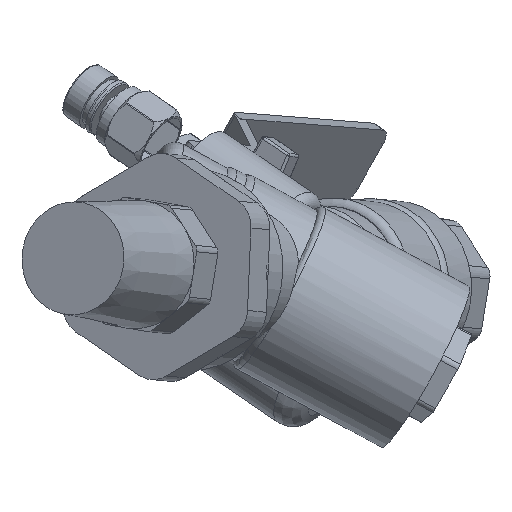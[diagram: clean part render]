
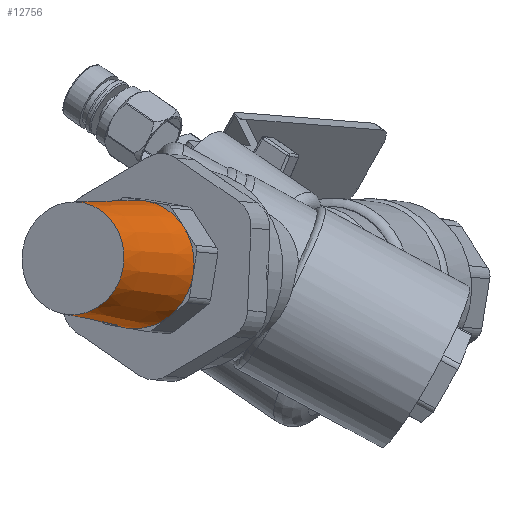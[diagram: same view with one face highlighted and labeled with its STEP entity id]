
A CAD part, front view. The second image highlights one B-rep face of the part: STEP entity #12756.
In plain terms, the highlighted conical face has half-angle 3 degrees and reference radius 13.335 mm.
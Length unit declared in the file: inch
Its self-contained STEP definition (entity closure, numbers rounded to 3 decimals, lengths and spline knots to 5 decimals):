
#275=CONICAL_SURFACE('',#13634,0.525,0.052);
#1563=LINE('',#20199,#2540);
#2540=VECTOR('',#15209,0.525);
#3578=FACE_OUTER_BOUND('',#4293,.T.);
#4293=EDGE_LOOP('',(#9535,#9536,#9537,#9538,#9539,#9540,#9541,#9542,#9543,
#9544,#9545,#9546));
#4784=CIRCLE('',#13318,0.525);
#4787=CIRCLE('',#13324,0.525);
#4790=CIRCLE('',#13330,0.525);
#4793=CIRCLE('',#13336,0.525);
#4794=CIRCLE('',#13337,0.525);
#4797=CIRCLE('',#13343,0.525);
#4800=CIRCLE('',#13348,0.525);
#4803=CIRCLE('',#13353,0.525);
#4806=CIRCLE('',#13359,0.525);
#4936=CIRCLE('',#13635,0.46211);
#5105=VERTEX_POINT('',#17239);
#5106=VERTEX_POINT('',#17241);
#5113=VERTEX_POINT('',#17260);
#5114=VERTEX_POINT('',#17262);
#5123=VERTEX_POINT('',#17290);
#5126=VERTEX_POINT('',#17299);
#5129=VERTEX_POINT('',#17309);
#5134=VERTEX_POINT('',#17325);
#5139=VERTEX_POINT('',#17338);
#5525=VERTEX_POINT('',#20197);
#6371=EDGE_CURVE('',#5105,#5106,#4784,.T.);
#6381=EDGE_CURVE('',#5113,#5114,#4787,.T.);
#6390=EDGE_CURVE('',#5106,#5113,#4790,.T.);
#6400=EDGE_CURVE('',#5114,#5126,#4793,.T.);
#6401=EDGE_CURVE('',#5126,#5123,#4794,.T.);
#6409=EDGE_CURVE('',#5123,#5129,#4797,.T.);
#6414=EDGE_CURVE('',#5134,#5105,#4800,.T.);
#6420=EDGE_CURVE('',#5139,#5134,#4803,.T.);
#6427=EDGE_CURVE('',#5129,#5139,#4806,.T.);
#7000=EDGE_CURVE('',#5525,#5525,#4936,.T.);
#7001=EDGE_CURVE('',#5525,#5126,#1563,.T.);
#9535=ORIENTED_EDGE('',*,*,#7000,.T.);
#9536=ORIENTED_EDGE('',*,*,#7001,.T.);
#9537=ORIENTED_EDGE('',*,*,#6400,.F.);
#9538=ORIENTED_EDGE('',*,*,#6381,.F.);
#9539=ORIENTED_EDGE('',*,*,#6390,.F.);
#9540=ORIENTED_EDGE('',*,*,#6371,.F.);
#9541=ORIENTED_EDGE('',*,*,#6414,.F.);
#9542=ORIENTED_EDGE('',*,*,#6420,.F.);
#9543=ORIENTED_EDGE('',*,*,#6427,.F.);
#9544=ORIENTED_EDGE('',*,*,#6409,.F.);
#9545=ORIENTED_EDGE('',*,*,#6401,.F.);
#9546=ORIENTED_EDGE('',*,*,#7001,.F.);
#12756=ADVANCED_FACE('',(#3578),#275,.T.);
#13318=AXIS2_PLACEMENT_3D('',#17242,#14276,#14277);
#13324=AXIS2_PLACEMENT_3D('',#17263,#14295,#14296);
#13330=AXIS2_PLACEMENT_3D('',#17279,#14313,#14314);
#13336=AXIS2_PLACEMENT_3D('',#17300,#14332,#14333);
#13337=AXIS2_PLACEMENT_3D('',#17301,#14334,#14335);
#13343=AXIS2_PLACEMENT_3D('',#17317,#14351,#14352);
#13348=AXIS2_PLACEMENT_3D('',#17327,#14363,#14364);
#13353=AXIS2_PLACEMENT_3D('',#17340,#14376,#14377);
#13359=AXIS2_PLACEMENT_3D('',#17352,#14392,#14393);
#13634=AXIS2_PLACEMENT_3D('',#20196,#15205,#15206);
#13635=AXIS2_PLACEMENT_3D('',#20198,#15207,#15208);
#14276=DIRECTION('center_axis',(0.43,0.902,-0.042));
#14277=DIRECTION('ref_axis',(0.76,-0.386,-0.522));
#14295=DIRECTION('center_axis',(0.43,0.902,-0.042));
#14296=DIRECTION('ref_axis',(0.76,-0.386,-0.522));
#14313=DIRECTION('center_axis',(0.43,0.902,-0.042));
#14314=DIRECTION('ref_axis',(0.76,-0.386,-0.522));
#14332=DIRECTION('center_axis',(0.43,0.902,-0.042));
#14333=DIRECTION('ref_axis',(0.76,-0.386,-0.522));
#14334=DIRECTION('center_axis',(0.43,0.902,-0.042));
#14335=DIRECTION('ref_axis',(0.76,-0.386,-0.522));
#14351=DIRECTION('center_axis',(0.43,0.902,-0.042));
#14352=DIRECTION('ref_axis',(0.76,-0.386,-0.522));
#14363=DIRECTION('center_axis',(0.43,0.902,-0.042));
#14364=DIRECTION('ref_axis',(0.76,-0.386,-0.522));
#14376=DIRECTION('center_axis',(0.43,0.902,-0.042));
#14377=DIRECTION('ref_axis',(0.76,-0.386,-0.522));
#14392=DIRECTION('center_axis',(0.43,0.902,-0.042));
#14393=DIRECTION('ref_axis',(0.76,-0.386,-0.522));
#15205=DIRECTION('center_axis',(0.43,0.902,-0.042));
#15206=DIRECTION('ref_axis',(0.76,-0.386,-0.522));
#15207=DIRECTION('center_axis',(0.43,0.902,-0.042));
#15208=DIRECTION('ref_axis',(0.76,-0.386,-0.522));
#15209=DIRECTION('',(0.389,0.921,-0.015));
#17239=CARTESIAN_POINT('',(-3.85962,-4.14967,1.12874));
#17241=CARTESIAN_POINT('',(-4.21406,-3.98521,1.03498));
#17242=CARTESIAN_POINT('Origin',(-4.1306,-4.00089,1.55307));
#17260=CARTESIAN_POINT('',(-4.5196,-3.82994,1.24472));
#17262=CARTESIAN_POINT('',(-4.59728,-3.77481,1.63509));
#17263=CARTESIAN_POINT('Origin',(-4.1306,-4.00089,1.55307));
#17279=CARTESIAN_POINT('Origin',(-4.1306,-4.00089,1.55307));
#17290=CARTESIAN_POINT('',(-4.40158,-3.85212,1.97741));
#17299=CARTESIAN_POINT('',(-4.52982,-3.79802,1.82711));
#17300=CARTESIAN_POINT('Origin',(-4.1306,-4.00089,1.55307));
#17301=CARTESIAN_POINT('Origin',(-4.1306,-4.00089,1.55307));
#17309=CARTESIAN_POINT('',(-4.04715,-4.01657,2.07116));
#17317=CARTESIAN_POINT('Origin',(-4.1306,-4.00089,1.55307));
#17325=CARTESIAN_POINT('',(-3.66393,-4.22697,1.47106));
#17327=CARTESIAN_POINT('Origin',(-4.1306,-4.00089,1.55307));
#17338=CARTESIAN_POINT('',(-3.74161,-4.17184,1.86142));
#17340=CARTESIAN_POINT('Origin',(-4.1306,-4.00089,1.55307));
#17352=CARTESIAN_POINT('Origin',(-4.1306,-4.00089,1.55307));
#20196=CARTESIAN_POINT('Origin',(-4.1306,-4.00089,1.55307));
#20197=CARTESIAN_POINT('',(-4.99755,-4.90477,1.84456));
#20198=CARTESIAN_POINT('Origin',(-4.64616,-5.08333,1.60335));
#20199=CARTESIAN_POINT('',(-4.52982,-3.79802,1.82711));
